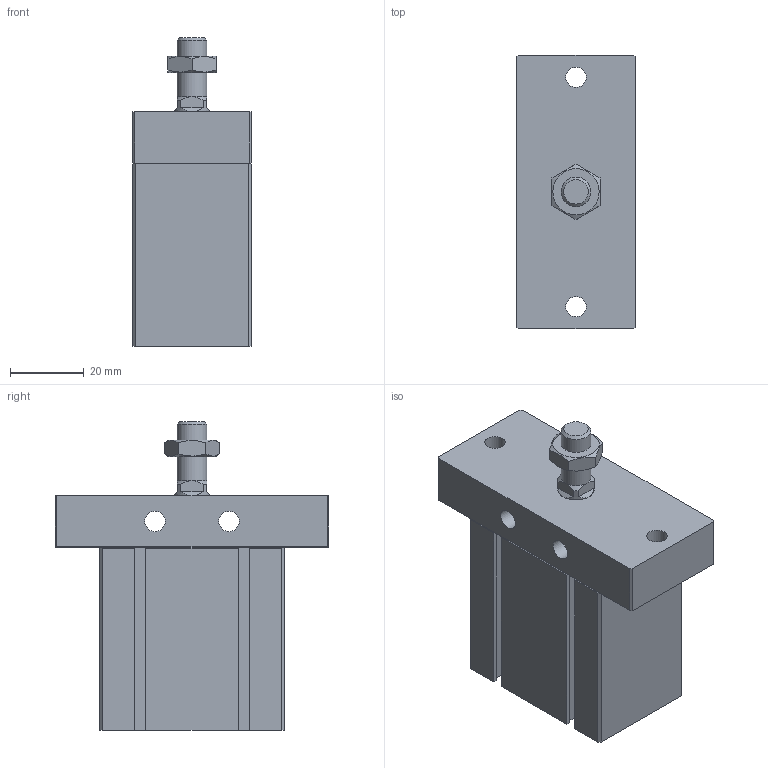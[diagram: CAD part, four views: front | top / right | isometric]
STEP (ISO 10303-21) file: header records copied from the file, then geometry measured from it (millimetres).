
FILE_DESCRIPTION((''),'2;1');
FILE_NAME('J:\3D電子目錄\氣缸\ND\ND\ND25-FBS\ND25x10-FBS.stp','2008-03-13T09:52:12',('66-2f-008'),(''),'Autodesk Inventor 11','Autodesk Inventor 11','');
FILE_SCHEMA(('AUTOMOTIVE_DESIGN { 1 0 10303 214 1 1 1 1 }'));
Length unit declared in the file: millimetre
Products named in the file (1): ND25-FBS
Bounding box: 32 x 74 x 83.5 mm (x, y, z)
Volume: 104257.7 mm3; surface area: 22068.2 mm2
Topology: 2 solids, 2 shells, 129 faces, 311 edges, 197 vertices
Faces by surface type: plane 87, cone 14, bspline 14, cylinder 13, torus 1
Full cylindrical faces by diameter (mm): 1.5 x2, 5.5 x2, 8 x2, 17 x1, 28 x1, 29.4 x1
Entity records: 3654 total; most frequent: CARTESIAN_POINT 820, DIRECTION 552, ORIENTED_EDGE 552, EDGE_CURVE 276, VERTEX_POINT 192, VECTOR 192, LINE 192, AXIS2_PLACEMENT_3D 180
